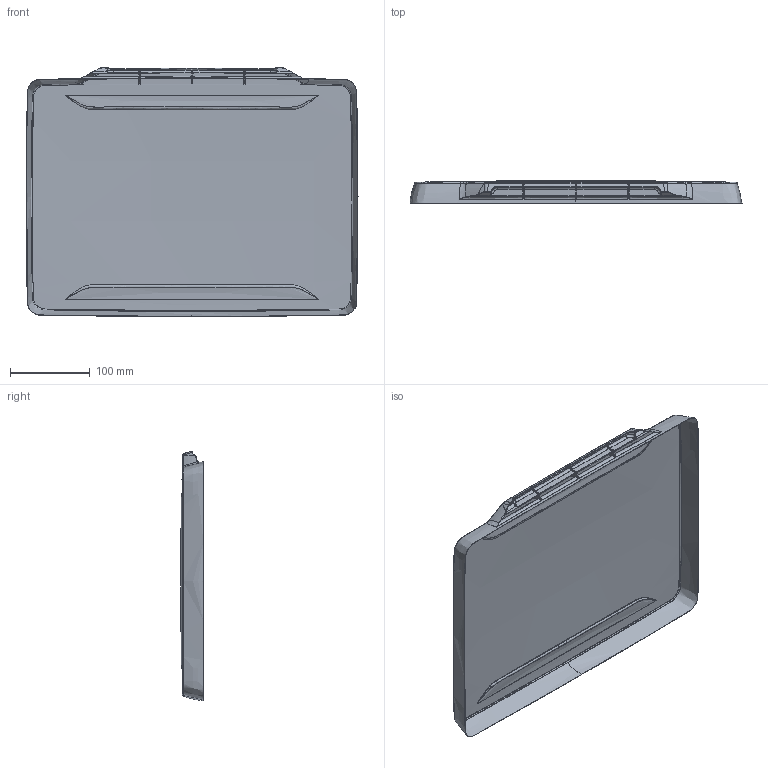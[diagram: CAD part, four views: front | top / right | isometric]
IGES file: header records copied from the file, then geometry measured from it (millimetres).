
Start section: SolidWorks IGES file using analytic representation for surfaces
Global section: file name: C:\Working\1095 CASE\New folder\1091-932T-CLR  OEM.IGS; native system: SolidWorks 2011; preprocessor: SolidWorks 2011; author: mhakami; date: 130327.131444; units: inch
Bounding box: 416.29 x 28.56 x 312.56 mm (x, y, z)
Surface area: 315446 mm2 (no closed solid volume)
Topology: 0 solids, 0 shells, 424 faces, 3457 edges, 3424 vertices
Faces by surface type: bspline 400, revolution 24
